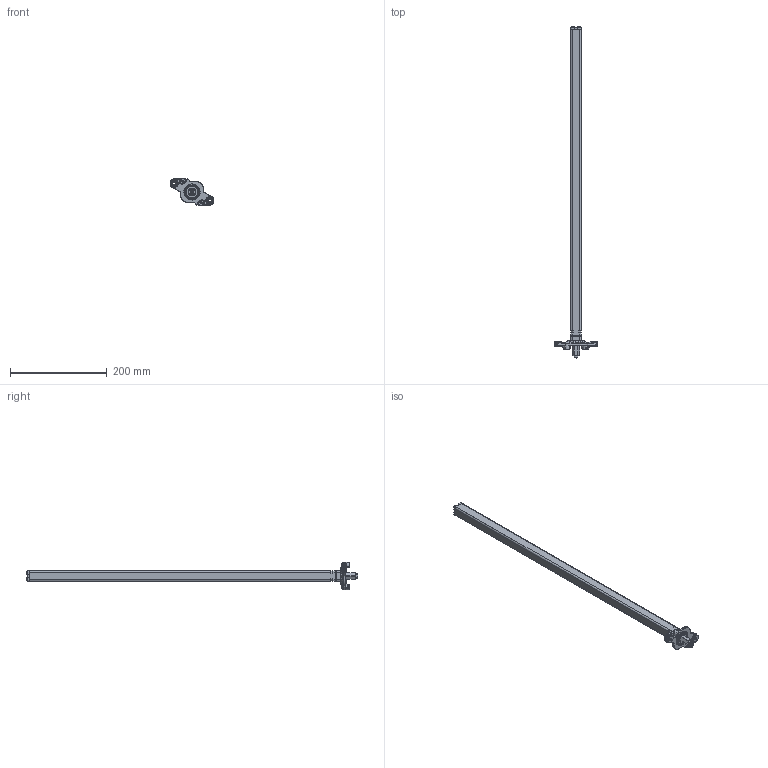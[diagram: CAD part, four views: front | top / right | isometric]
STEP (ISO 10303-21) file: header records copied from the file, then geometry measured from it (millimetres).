
FILE_DESCRIPTION(/* description */ (''),/* implementation_level */ '2;1');
FILE_NAME(/* name */ 'TBS3',/* time_stamp */ '2015-03-03T10:55:47+08:00',/* author */ (''),/* organization */ (''),/* preprocessor_version */ 'ST-DEVELOPER v15',/* originating_system */ '',/* authorisation */ '');
FILE_SCHEMA (('AUTOMOTIVE_DESIGN_CC2'));
Products named in the file (1): Document
Bounding box: 90 x 688 x 57.36 mm (x, y, z)
Volume: 95080.6 mm3; surface area: 119893.8 mm2
Topology: 9 solids, 12 shells, 1144 faces, 2738 edges, 1597 vertices
Faces by surface type: bspline 1144
Entity records: 166283 total; most frequent: CARTESIAN_POINT 131803, B_SPLINE_CURVE_WITH_KNOTS 7138, ORIENTED_EDGE 5408, PCURVE 5408, DEFINITIONAL_REPRESENTATION 5408, SURFACE_CURVE 2709, EDGE_CURVE 2709, VERTEX_POINT 1597
